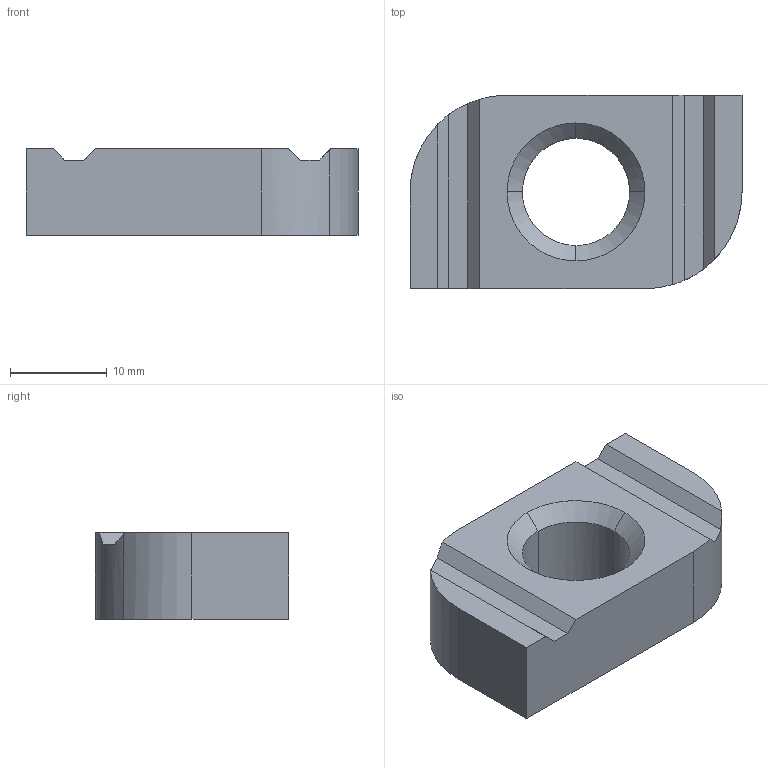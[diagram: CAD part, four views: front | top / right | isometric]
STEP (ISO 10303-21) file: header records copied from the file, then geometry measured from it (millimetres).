
FILE_DESCRIPTION(('TurboCAD Mac Pro'),'Build 980');
FILE_NAME('P3009.stp',' ',(''),(''),'ACIS Interop','IMSI','TurboCAD Mac Pro BY IMSI, INCORPORATED');
FILE_SCHEMA(('automotive_design'));
Length unit declared in the file: inch
Products named in the file (1): 1
Bounding box: 34.4 x 20 x 9 mm (x, y, z)
Volume: 4741.7 mm3; surface area: 2303.1 mm2
Topology: 1 solids, 1 shells, 26 faces, 68 edges, 44 vertices
Faces by surface type: plane 14, bspline 8, cylinder 4
Entity records: 1312 total; most frequent: CARTESIAN_POINT 467, ORIENTED_EDGE 136, DIRECTION 110, EDGE_CURVE 68, VERTEX_POINT 44, LINE 40, VECTOR 40, AXIS2_PLACEMENT_3D 35
